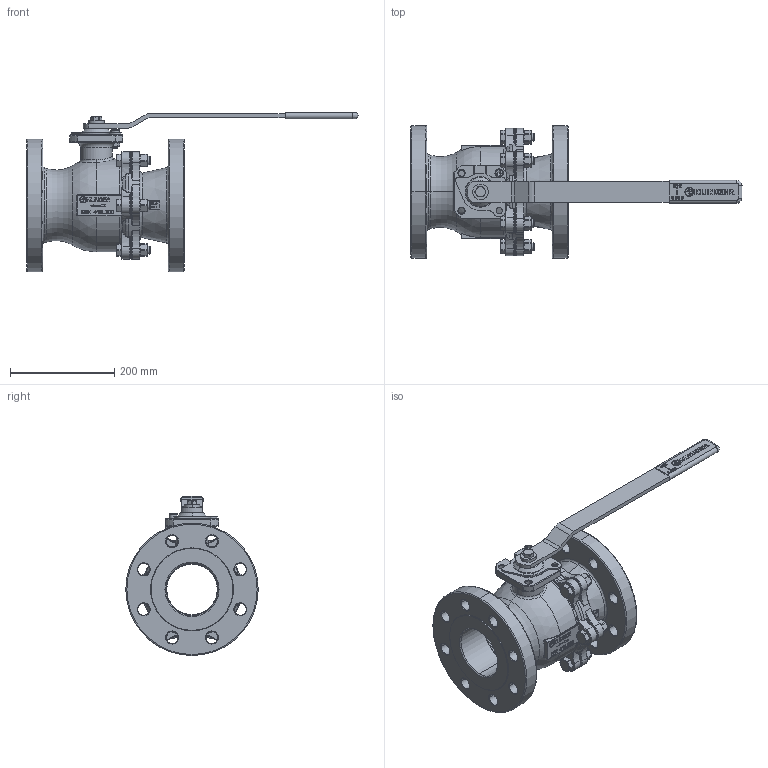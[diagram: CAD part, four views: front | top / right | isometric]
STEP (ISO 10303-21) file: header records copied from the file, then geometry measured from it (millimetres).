
FILE_DESCRIPTION((''),'2;1');
FILE_NAME('KHEFS-4-VFS-4-C300PKK','2015-08-11T',('mahrhauserh'),('RAND'),'PRO/ENGINEER BY PARAMETRIC TECHNOLOGY CORPORATION, 2013410','PRO/ENGINEER BY PARAMETRIC TECHNOLOGY CORPORATION, 2013410','');
FILE_SCHEMA(('CONFIG_CONTROL_DESIGN'));
Products named in the file (1): KHEFS-4-VFS-4-C300PKK
Bounding box: 637 x 254 x 305.25 mm (x, y, z)
Volume: 5821051 mm3; surface area: 833233.6 mm2
Topology: 1 solids, 1 shells, 3128 faces, 8238 edges, 5248 vertices
Faces by surface type: plane 1931, cylinder 453, torus 343, cone 236, bspline 151, sphere 14
Entity records: 119826 total; most frequent: CARTESIAN_POINT 42624, ORIENTED_EDGE 16472, DIRECTION 15570, EDGE_CURVE 8236, VECTOR 5568, LINE 5568, VERTEX_POINT 5248, AXIS2_PLACEMENT_3D 5001
